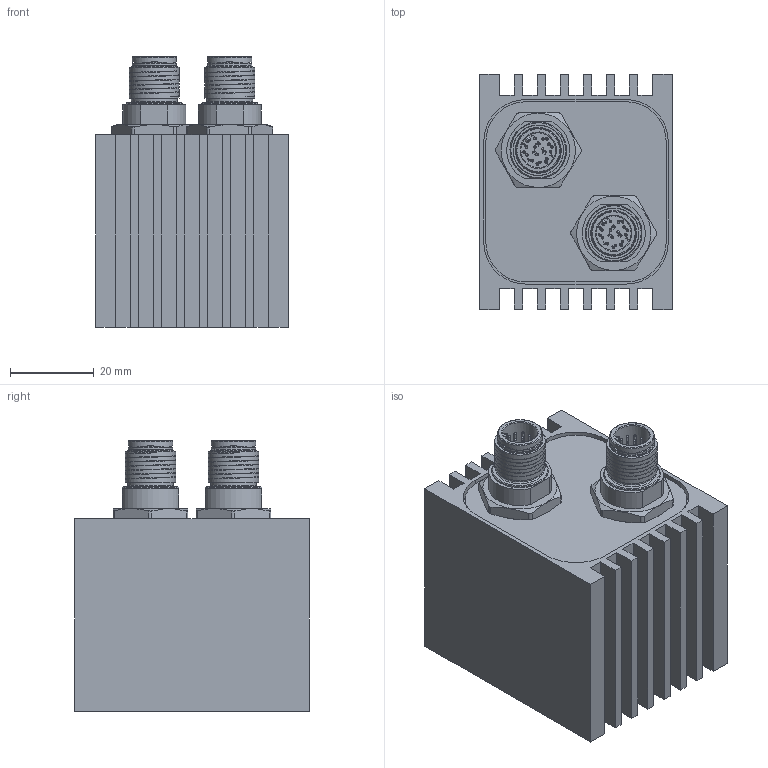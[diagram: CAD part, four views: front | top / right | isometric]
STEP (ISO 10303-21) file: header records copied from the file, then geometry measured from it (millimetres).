
FILE_DESCRIPTION(/* description */ (''),/* implementation_level */ '2;1');
FILE_NAME(/* name */ 'C:\#Vault-WorkDir\Konstruktions-Dokumente\Projekte\VISOR\Zubehör\153-13542_LS 55x46 xK 24 A13 2L12 Spotlicht_1.stp',/* time_stamp */ '2019-12-03T08:36:13+01:00',/* author */ ('SensoPart'),/* organization */ ('SensoPart'),/* preprocessor_version */ 'ST-DEVELOPER v17',/* originating_system */ 'Autodesk Inventor 2018',/* authorisation */ '');
FILE_SCHEMA (('AUTOMOTIVE_DESIGN { 1 0 10303 214 3 1 1 }'));
Products named in the file (1): GH-ENG-0030507
Bounding box: 46 x 56 x 64.6 mm (x, y, z)
Volume: 108602 mm3; surface area: 29931.1 mm2
Topology: 3 solids, 4 shells, 760 faces, 2119 edges, 1443 vertices
Faces by surface type: plane 359, bspline 228, cylinder 130, sphere 24, cone 11, torus 8
Full cylindrical faces by diameter (mm): 0.6 x24, 3.3 x3, 5.2 x1, 6.8 x1, 8.3 x2, 9.5 x2, 9.6 x2, 10.6 x4, 10.917 x4, 12 x14, 13.5 x2, 24 x1, 26 x1, 26.9 x1, 27 x1, 30 x1, 30.5 x1
Entity records: 41126 total; most frequent: CARTESIAN_POINT 23007, ORIENTED_EDGE 4190, DIRECTION 2972, EDGE_CURVE 2095, VERTEX_POINT 1443, LINE 1142, VECTOR 1142, AXIS2_PLACEMENT_3D 915
